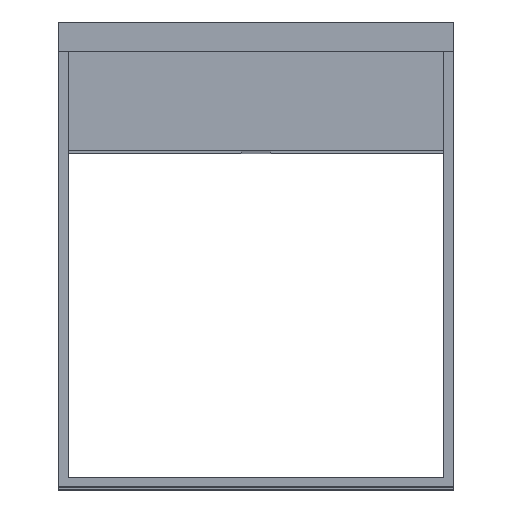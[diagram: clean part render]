
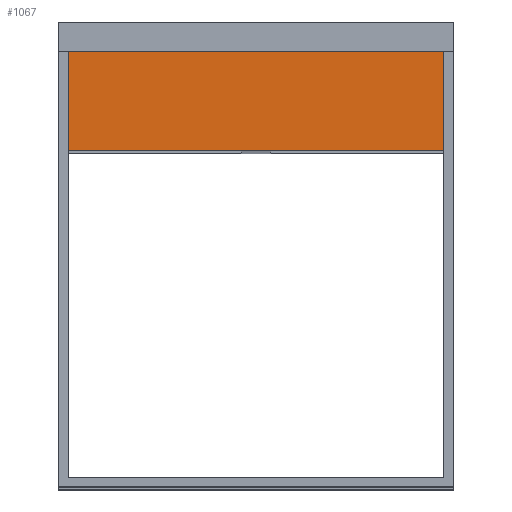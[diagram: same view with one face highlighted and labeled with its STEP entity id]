
A CAD part, top view. The second image highlights one B-rep face of the part: STEP entity #1067.
In plain terms, the highlighted planar face has unit normal (0, 0, 1).
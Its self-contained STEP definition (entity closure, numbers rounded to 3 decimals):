
#78 = LINE ( 'NONE', #1555, #1064 ) ;
#129 = CARTESIAN_POINT ( 'NONE',  ( -190., 205., 1765. ) ) ;
#155 = CARTESIAN_POINT ( 'NONE',  ( -190., 205., 1765. ) ) ;
#189 = VERTEX_POINT ( 'NONE', #650 ) ;
#242 = DIRECTION ( 'NONE',  ( 1., 0., 0. ) ) ;
#330 = EDGE_CURVE ( 'NONE', #189, #985, #78, .T. ) ;
#346 = AXIS2_PLACEMENT_3D ( 'NONE', #711, #825, #679 ) ;
#474 = ORIENTED_EDGE ( 'NONE', *, *, #1547, .T. ) ;
#485 = VERTEX_POINT ( 'NONE', #1389 ) ;
#500 = ORIENTED_EDGE ( 'NONE', *, *, #330, .T. ) ;
#600 = CARTESIAN_POINT ( 'NONE',  ( -190., 105., 1765. ) ) ;
#605 = DIRECTION ( 'NONE',  ( 0., 1., 0. ) ) ;
#650 = CARTESIAN_POINT ( 'NONE',  ( 190., 105., 1765. ) ) ;
#669 = EDGE_CURVE ( 'NONE', #485, #874, #1251, .T. ) ;
#679 = DIRECTION ( 'NONE',  ( 1., 0., 0. ) ) ;
#711 = CARTESIAN_POINT ( 'NONE',  ( -190., 105., 1765. ) ) ;
#825 = DIRECTION ( 'NONE',  ( 0., 0., 1. ) ) ;
#874 = VERTEX_POINT ( 'NONE', #129 ) ;
#898 = CARTESIAN_POINT ( 'NONE',  ( -190., 105., 1765. ) ) ;
#912 = EDGE_LOOP ( 'NONE', ( #1420, #1471, #474, #500 ) ) ;
#958 = FACE_OUTER_BOUND ( 'NONE', #912, .T. ) ;
#985 = VERTEX_POINT ( 'NONE', #1742 ) ;
#1036 = VECTOR ( 'NONE', #1285, 1000. ) ;
#1064 = VECTOR ( 'NONE', #605, 1000. ) ;
#1067 = ADVANCED_FACE ( 'NONE', ( #958 ), #1513, .T. ) ;
#1129 = VECTOR ( 'NONE', #242, 1000. ) ;
#1217 = VECTOR ( 'NONE', #1502, 1000. ) ;
#1251 = LINE ( 'NONE', #600, #1036 ) ;
#1285 = DIRECTION ( 'NONE',  ( 0., 1., 0. ) ) ;
#1333 = EDGE_CURVE ( 'NONE', #874, #985, #1621, .T. ) ;
#1389 = CARTESIAN_POINT ( 'NONE',  ( -190., 105., 1765. ) ) ;
#1420 = ORIENTED_EDGE ( 'NONE', *, *, #1333, .F. ) ;
#1471 = ORIENTED_EDGE ( 'NONE', *, *, #669, .F. ) ;
#1502 = DIRECTION ( 'NONE',  ( 1., 0., 0. ) ) ;
#1513 = PLANE ( 'NONE',  #346 ) ;
#1547 = EDGE_CURVE ( 'NONE', #485, #189, #1706, .T. ) ;
#1555 = CARTESIAN_POINT ( 'NONE',  ( 190., 105., 1765. ) ) ;
#1621 = LINE ( 'NONE', #155, #1217 ) ;
#1706 = LINE ( 'NONE', #898, #1129 ) ;
#1742 = CARTESIAN_POINT ( 'NONE',  ( 190., 205., 1765. ) ) ;
